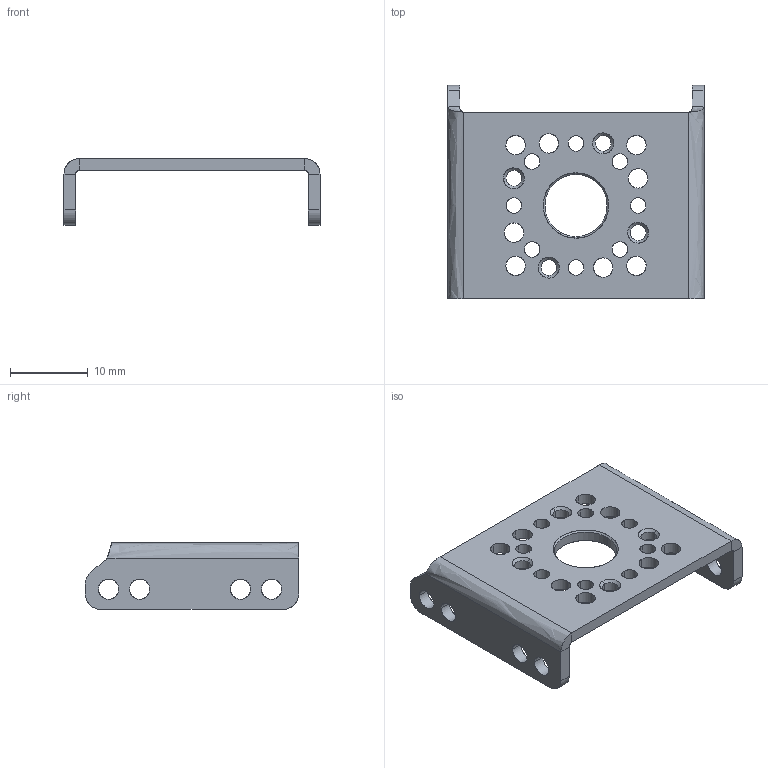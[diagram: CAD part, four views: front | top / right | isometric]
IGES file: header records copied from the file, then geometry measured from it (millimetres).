
Global section: file name: C:\Users\Knabe\Documents\Classes\8 Semester 8\DARwIn\Deliverables\DARwIn OP\DARwIn OP Part Files\OP 3D CAD Files\3D IGS\14_FR07_S101.igs; native system: NX V7.0; preprocessor: SIEMENS PLM Software NX 7.0; date: 20110525.180854; units: millimetre
Bounding box: 33 x 27.5 x 8.6 mm (x, y, z)
Surface area: 2502.4 mm2 (no closed solid volume)
Topology: 0 solids, 0 shells, 102 faces, 906 edges, 906 vertices
Faces by surface type: bspline 102
